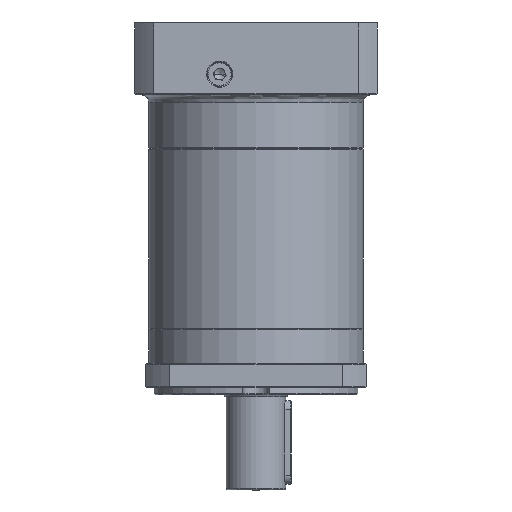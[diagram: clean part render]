
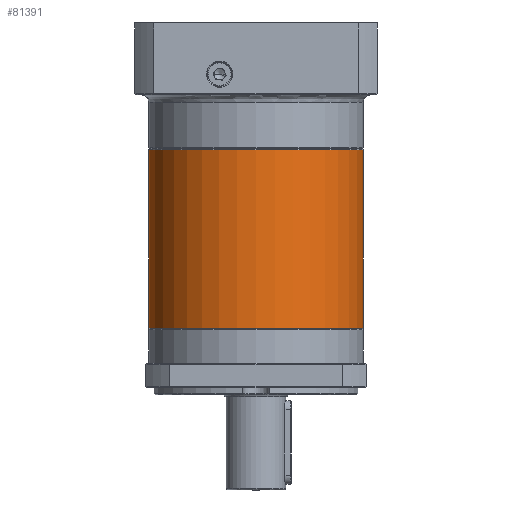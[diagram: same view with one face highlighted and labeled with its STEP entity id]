
A CAD part, front view. The second image highlights one B-rep face of the part: STEP entity #81391.
In plain terms, the highlighted cylindrical face has radius 57.5 mm (diameter 115 mm), a partial arc.
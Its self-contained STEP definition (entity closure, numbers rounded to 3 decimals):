
#1410 = CARTESIAN_POINT ( 'NONE',  ( 124.079, 48.833, -55.666 ) ) ;
#1502 = CARTESIAN_POINT ( 'NONE',  ( 66.579, 48.833, -56.166 ) ) ;
#2300 = CARTESIAN_POINT ( 'NONE',  ( 124.079, 48.833, -151.877 ) ) ;
#3057 = VERTEX_POINT ( 'NONE', #55215 ) ;
#8860 = DIRECTION ( 'NONE',  ( -1., 0., 0. ) ) ;
#12459 = DIRECTION ( 'NONE',  ( 0., 0., -1. ) ) ;
#14271 = EDGE_CURVE ( 'NONE', #72666, #65516, #133841, .T. ) ;
#15161 = AXIS2_PLACEMENT_3D ( 'NONE', #92168, #124045, #8860 ) ;
#20805 = VERTEX_POINT ( 'NONE', #80075 ) ;
#21914 = FACE_OUTER_BOUND ( 'NONE', #63323, .T. ) ;
#24617 = VECTOR ( 'NONE', #86662, 1000. ) ;
#37800 = CARTESIAN_POINT ( 'NONE',  ( 124.079, 48.833, -56.166 ) ) ;
#40310 = EDGE_CURVE ( 'NONE', #20805, #3057, #79987, .T. ) ;
#42764 = LINE ( 'NONE', #96859, #24617 ) ;
#54053 = CIRCLE ( 'NONE', #55748, 57.5 ) ;
#55215 = CARTESIAN_POINT ( 'NONE',  ( 9.079, 48.833, -56.166 ) ) ;
#55748 = AXIS2_PLACEMENT_3D ( 'NONE', #70229, #60115, #133881 ) ;
#57651 = EDGE_CURVE ( 'NONE', #3057, #120777, #42764, .T. ) ;
#60115 = DIRECTION ( 'NONE',  ( 0., 0., 1. ) ) ;
#63323 = EDGE_LOOP ( 'NONE', ( #71932, #131011, #116511, #104334, #86078 ) ) ;
#63982 = DIRECTION ( 'NONE',  ( 0., 0., -1. ) ) ;
#65516 = VERTEX_POINT ( 'NONE', #2300 ) ;
#69178 = DIRECTION ( 'NONE',  ( -1., 0., 0. ) ) ;
#70229 = CARTESIAN_POINT ( 'NONE',  ( 66.579, 48.833, -151.877 ) ) ;
#71932 = ORIENTED_EDGE ( 'NONE', *, *, #14271, .F. ) ;
#72666 = VERTEX_POINT ( 'NONE', #37800 ) ;
#74153 = DIRECTION ( 'NONE',  ( -1., 0., 0. ) ) ;
#77678 = VECTOR ( 'NONE', #63982, 1000. ) ;
#79987 = CIRCLE ( 'NONE', #93503, 57.5 ) ;
#80075 = CARTESIAN_POINT ( 'NONE',  ( 66.579, -8.667, -56.166 ) ) ;
#81391 = ADVANCED_FACE ( 'NONE', ( #21914 ), #92707, .T. ) ;
#86078 = ORIENTED_EDGE ( 'NONE', *, *, #114602, .T. ) ;
#86662 = DIRECTION ( 'NONE',  ( 0., 0., -1. ) ) ;
#92168 = CARTESIAN_POINT ( 'NONE',  ( 66.579, 48.833, -55.666 ) ) ;
#92707 = CYLINDRICAL_SURFACE ( 'NONE', #15161, 57.5 ) ;
#93503 = AXIS2_PLACEMENT_3D ( 'NONE', #1502, #12459, #74153 ) ;
#96859 = CARTESIAN_POINT ( 'NONE',  ( 9.079, 48.833, -55.666 ) ) ;
#101253 = CIRCLE ( 'NONE', #112587, 57.5 ) ;
#104334 = ORIENTED_EDGE ( 'NONE', *, *, #57651, .T. ) ;
#106052 = CARTESIAN_POINT ( 'NONE',  ( 9.079, 48.833, -151.877 ) ) ;
#110718 = DIRECTION ( 'NONE',  ( 0., 0., -1. ) ) ;
#112536 = CARTESIAN_POINT ( 'NONE',  ( 66.579, 48.833, -56.166 ) ) ;
#112587 = AXIS2_PLACEMENT_3D ( 'NONE', #112536, #110718, #69178 ) ;
#114602 = EDGE_CURVE ( 'NONE', #120777, #65516, #54053, .T. ) ;
#116511 = ORIENTED_EDGE ( 'NONE', *, *, #40310, .T. ) ;
#120777 = VERTEX_POINT ( 'NONE', #106052 ) ;
#124045 = DIRECTION ( 'NONE',  ( 0., 0., -1. ) ) ;
#131011 = ORIENTED_EDGE ( 'NONE', *, *, #133566, .T. ) ;
#133566 = EDGE_CURVE ( 'NONE', #72666, #20805, #101253, .T. ) ;
#133841 = LINE ( 'NONE', #1410, #77678 ) ;
#133881 = DIRECTION ( 'NONE',  ( -1., 0., 0. ) ) ;
